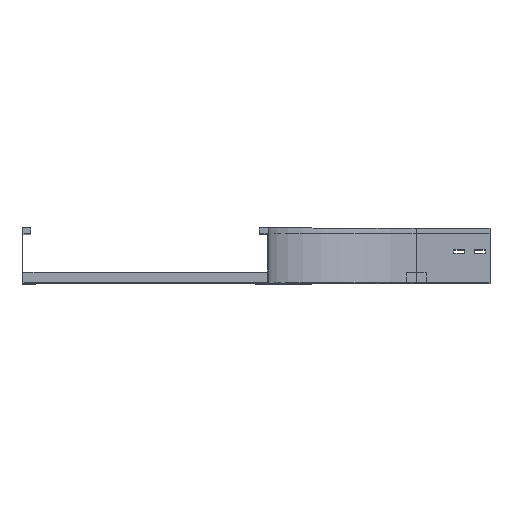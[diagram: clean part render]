
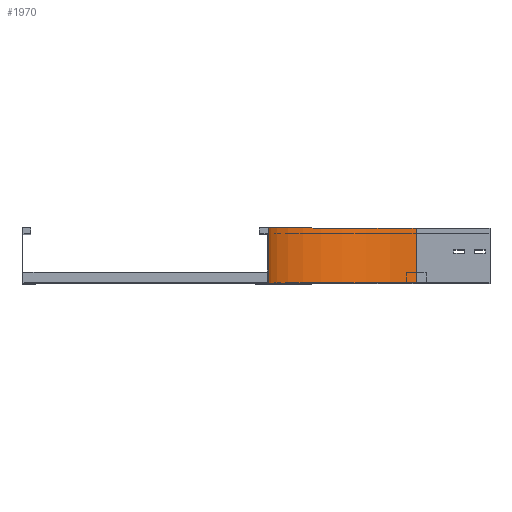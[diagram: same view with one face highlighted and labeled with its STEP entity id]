
A CAD part, top view. The second image highlights one B-rep face of the part: STEP entity #1970.
In plain terms, the highlighted cylindrical face has radius 300 mm (diameter 600 mm), a partial arc.
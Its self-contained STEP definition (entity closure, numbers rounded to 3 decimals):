
#81 = ORIENTED_EDGE ( 'NONE', *, *, #3500, .F. ) ;
#133 = EDGE_CURVE ( 'NONE', #2511, #3350, #3321, .T. ) ;
#266 = CARTESIAN_POINT ( 'NONE',  ( 0., 112.5, -150. ) ) ;
#354 = VERTEX_POINT ( 'NONE', #266 ) ;
#356 = DIRECTION ( 'NONE',  ( 0., -1., 0. ) ) ;
#404 = CIRCLE ( 'NONE', #2952, 300. ) ;
#418 = ORIENTED_EDGE ( 'NONE', *, *, #133, .T. ) ;
#498 = CARTESIAN_POINT ( 'NONE',  ( 300., 112.5, -450. ) ) ;
#551 = LINE ( 'NONE', #2927, #2795 ) ;
#553 = AXIS2_PLACEMENT_3D ( 'NONE', #2338, #843, #2629 ) ;
#581 = DIRECTION ( 'NONE',  ( 0., -1., 0. ) ) ;
#589 = DIRECTION ( 'NONE',  ( 0., 1., 0. ) ) ;
#594 = CARTESIAN_POINT ( 'NONE',  ( 300., 0., -450. ) ) ;
#843 = DIRECTION ( 'NONE',  ( 0., -1., 0. ) ) ;
#1284 = CARTESIAN_POINT ( 'NONE',  ( 300., 112.5, -150. ) ) ;
#1310 = EDGE_CURVE ( 'NONE', #3056, #354, #551, .T. ) ;
#1389 = VECTOR ( 'NONE', #589, 1000. ) ;
#1448 = CYLINDRICAL_SURFACE ( 'NONE', #3171, 300. ) ;
#1466 = FACE_OUTER_BOUND ( 'NONE', #2506, .T. ) ;
#1733 = CARTESIAN_POINT ( 'NONE',  ( 300., 0., -150. ) ) ;
#1769 = DIRECTION ( 'NONE',  ( 0., 0., -1. ) ) ;
#1778 = CARTESIAN_POINT ( 'NONE',  ( 300., 0., -450. ) ) ;
#1865 = DIRECTION ( 'NONE',  ( -1., 0., 0. ) ) ;
#1961 = DIRECTION ( 'NONE',  ( 0., 1., 0. ) ) ;
#1970 = ADVANCED_FACE ( 'NONE', ( #1466 ), #1448, .F. ) ;
#2044 = EDGE_CURVE ( 'NONE', #3056, #2511, #3613, .T. ) ;
#2150 = CARTESIAN_POINT ( 'NONE',  ( 0., 0., -150. ) ) ;
#2222 = ORIENTED_EDGE ( 'NONE', *, *, #2044, .T. ) ;
#2338 = CARTESIAN_POINT ( 'NONE',  ( 300., 0., -150. ) ) ;
#2506 = EDGE_LOOP ( 'NONE', ( #81, #3555, #2222, #418 ) ) ;
#2511 = VERTEX_POINT ( 'NONE', #594 ) ;
#2629 = DIRECTION ( 'NONE',  ( -1., 0., 0. ) ) ;
#2795 = VECTOR ( 'NONE', #1961, 1000. ) ;
#2927 = CARTESIAN_POINT ( 'NONE',  ( 0., 0., -150. ) ) ;
#2952 = AXIS2_PLACEMENT_3D ( 'NONE', #1284, #356, #1865 ) ;
#3056 = VERTEX_POINT ( 'NONE', #2150 ) ;
#3171 = AXIS2_PLACEMENT_3D ( 'NONE', #1733, #581, #1769 ) ;
#3321 = LINE ( 'NONE', #1778, #1389 ) ;
#3350 = VERTEX_POINT ( 'NONE', #498 ) ;
#3500 = EDGE_CURVE ( 'NONE', #354, #3350, #404, .T. ) ;
#3555 = ORIENTED_EDGE ( 'NONE', *, *, #1310, .F. ) ;
#3613 = CIRCLE ( 'NONE', #553, 300. ) ;
